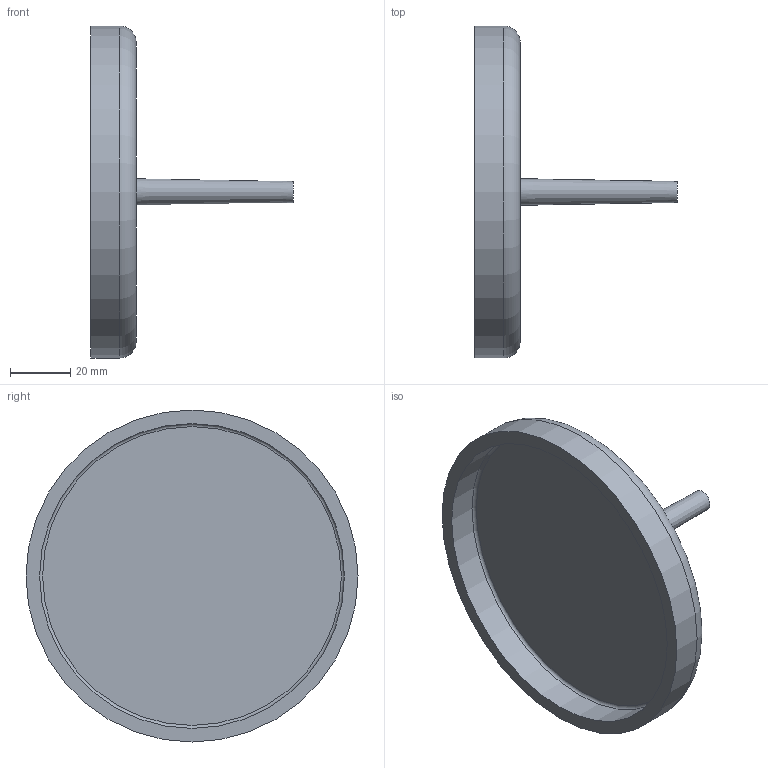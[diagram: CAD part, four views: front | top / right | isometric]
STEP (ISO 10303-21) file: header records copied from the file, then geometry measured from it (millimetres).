
FILE_DESCRIPTION(/* description */ (''),/* implementation_level */ '2;1');
FILE_NAME(/* name */ 'Z:\Geberit\Export\NewStep\Abschlussdeckel_Ipart\stp\367812.stp',/* time_stamp */ '2014-04-03T17:37:01+02:00',/* author */ ('Bründl'),/* organization */ (''),/* preprocessor_version */ 'ST-DEVELOPER v15.2',/* originating_system */ 'Autodesk Inventor 2014',/* authorisation */ '');
FILE_SCHEMA (('AUTOMOTIVE_DESIGN { 1 0 10303 214 3 1 1 }'));
Length unit declared in the file: millimetre
Products named in the file (1): 367812
Bounding box: 67 x 110 x 110 mm (x, y, z)
Volume: 58864.9 mm3; surface area: 27825.5 mm2
Topology: 1 solids, 1 shells, 9 faces, 13 edges, 8 vertices
Faces by surface type: plane 4, cylinder 2, torus 2, cone 1
Full cylindrical faces by diameter (mm): 101 x1, 110 x1
Entity records: 204 total; most frequent: DIRECTION 36, CARTESIAN_POINT 26, AXIS2_PLACEMENT_3D 18, EDGE_LOOP 16, ORIENTED_EDGE 16, STYLED_ITEM 10, ADVANCED_FACE 9, FACE_BOUND 8
